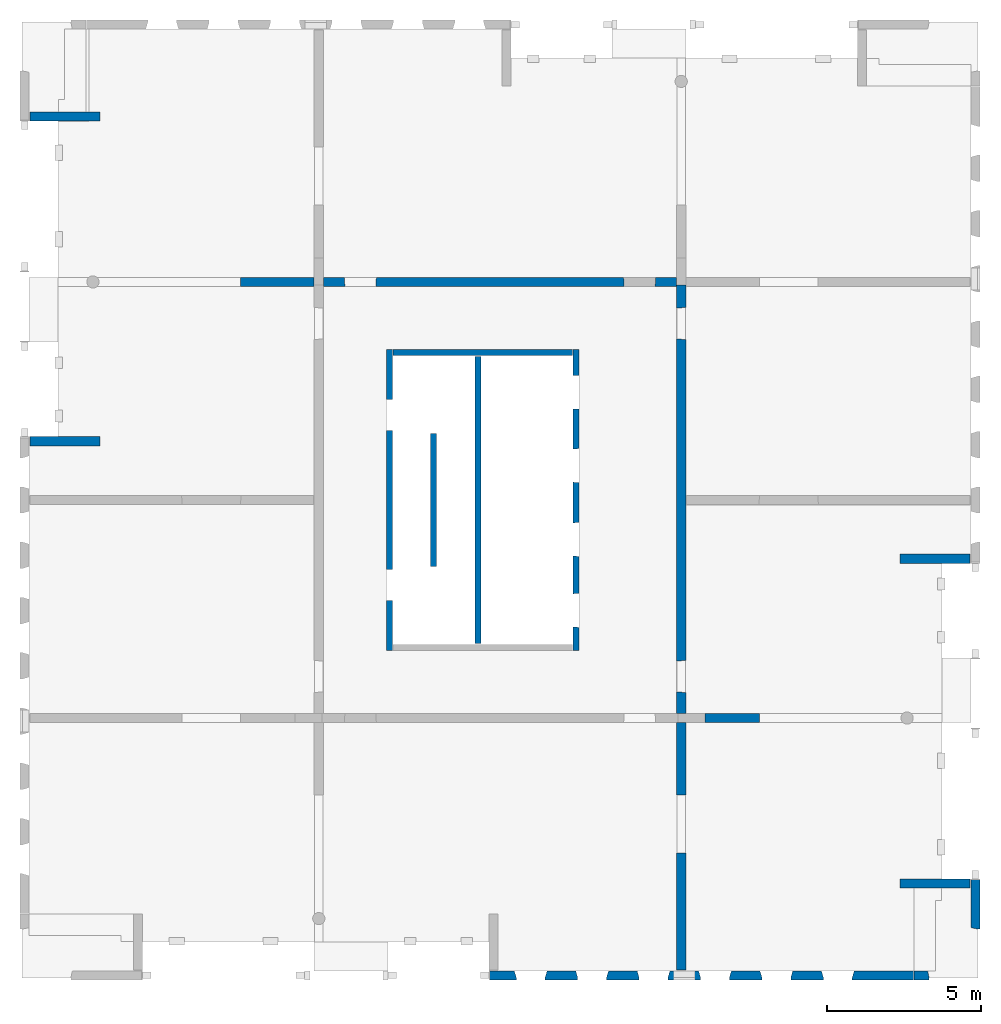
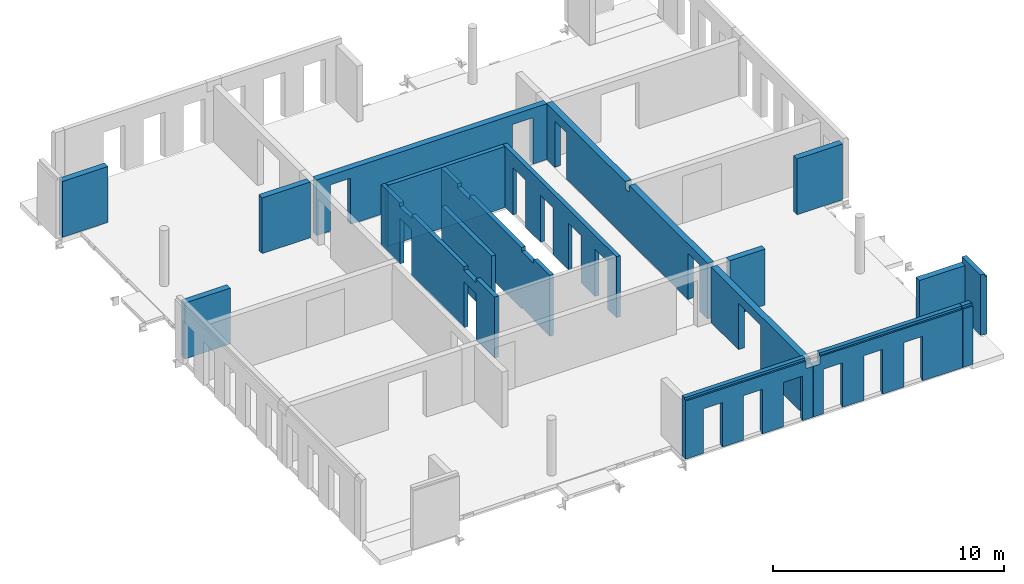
# One storey, part 3 of 6: 19 walls, 36 openings.
"""IFC2X3 building model written with IfcOpenShell, lengths in millimetres."""

from ifc_helpers import new_model, entity, si_unit, converted_unit, derived_unit, direction, frame, frame_2d, origin, origin_2d_with_axis, place, context, subcontext, project, spatial, rectangle, extrude, faceted_brep, material, layer, layer_set, layer_usage, type_object, element, save


model = new_model("IFC2X3")

# Units and contexts
model_context = context("Model", 3, precision=0.01, world=origin(), true_north=direction((6.12303176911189e-17, 1.0)))
body_context = subcontext(model_context, "Body", "Model", "MODEL_VIEW")
ifc_project = project(units=[si_unit("LENGTHUNIT", "METRE", prefix="MILLI"), si_unit("AREAUNIT", "SQUARE_METRE"), si_unit("VOLUMEUNIT", "CUBIC_METRE"), converted_unit("PLANEANGLEUNIT", "DEGREE", entity("IfcRatioMeasure", 0.0174532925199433), si_unit("PLANEANGLEUNIT", "RADIAN"), dimensions=[0, 0, 0, 0, 0, 0, 0]), si_unit("MASSUNIT", "GRAM", prefix="KILO"), derived_unit("MASSDENSITYUNIT", [(si_unit("MASSUNIT", "GRAM", prefix="KILO"), 1), (si_unit("LENGTHUNIT", "METRE"), -3)]), si_unit("TIMEUNIT", "SECOND"), si_unit("FREQUENCYUNIT", "HERTZ"), si_unit("THERMODYNAMICTEMPERATUREUNIT", "DEGREE_CELSIUS"), derived_unit("THERMALTRANSMITTANCEUNIT", [(si_unit("MASSUNIT", "GRAM", prefix="KILO"), 1), (si_unit("THERMODYNAMICTEMPERATUREUNIT", "KELVIN"), -1), (si_unit("TIMEUNIT", "SECOND"), -3)]), derived_unit("VOLUMETRICFLOWRATEUNIT", [(si_unit("LENGTHUNIT", "METRE"), 3), (si_unit("TIMEUNIT", "SECOND"), -1)]), si_unit("ELECTRICCURRENTUNIT", "AMPERE"), si_unit("ELECTRICVOLTAGEUNIT", "VOLT"), si_unit("POWERUNIT", "WATT"), si_unit("FORCEUNIT", "NEWTON", prefix="KILO"), si_unit("ILLUMINANCEUNIT", "LUX"), si_unit("LUMINOUSFLUXUNIT", "LUMEN"), si_unit("LUMINOUSINTENSITYUNIT", "CANDELA"), derived_unit("USERDEFINED", [(si_unit("MASSUNIT", "GRAM", prefix="KILO"), -1), (si_unit("LENGTHUNIT", "METRE"), -2), (si_unit("TIMEUNIT", "SECOND"), 3), (si_unit("LUMINOUSFLUXUNIT", "LUMEN"), 1)]), derived_unit("LINEARVELOCITYUNIT", [(si_unit("LENGTHUNIT", "METRE"), 1), (si_unit("TIMEUNIT", "SECOND"), -1)]), si_unit("PRESSUREUNIT", "PASCAL"), derived_unit("USERDEFINED", [(si_unit("LENGTHUNIT", "METRE"), -2), (si_unit("MASSUNIT", "GRAM", prefix="KILO"), 1), (si_unit("TIMEUNIT", "SECOND"), -2)])], contexts=[model_context])

# Site, building, storey
site_placement = place(None, origin())
site = spatial("IfcSite", under=ifc_project, at=site_placement, Name="Default", CompositionType="ELEMENT")
building_placement = place(site_placement, origin())
building = spatial("IfcBuilding", under=site, at=building_placement, Name="niet gebruiken", CompositionType="ELEMENT")
storey_placement = place(building_placement, frame((0.0, 0.0, 161820.0)))
storey = spatial("IfcBuildingStorey", under=building, at=storey_placement, Name="52 tweeënvijftigste verdieping", CompositionType="ELEMENT", Elevation=161820.0)

# Wall, openings
ifc_material = material(Name="NLRS_f2_beton prefab")
ifc_layer_1 = layer(ifc_material, 200.0)
ifc_layer_set_1 = layer_set([ifc_layer_1], Name="Basic Wall:NLRS_22.21_WA_beton prefab d=200_gen")
ifc_layer_usage_1 = layer_usage(ifc_layer_set_1, "AXIS2", "NEGATIVE", 100.0)
wall_type_1 = type_object("IfcWallType", Name="Basic Wall:NLRS_22.21_WA_beton prefab d=200_gen", PredefinedType="STANDARD", material=ifc_layer_set_1)
wall_1_placement = place(storey_placement, frame((138150.0, 22400.0, -50.0), z_axis=(0.0, 0.0, 1.0), x_axis=(0.0, -1.0, 0.0)))
wall_1 = element("IfcWallStandardCase", 1, at=wall_1_placement, inside=storey, type_object=wall_type_1, material=ifc_layer_usage_1, Name="Basic Wall:NLRS_22.21_WA_beton prefab d=200_gen", ObjectType="Basic Wall:NLRS_22.21_WA_beton prefab d=200_gen", context=body_context, shape_type="SweptSolid", body=[
    extrude(rectangle(XDim=9800.0, YDim=199.999999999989, at=frame_2d((4900.0, 3.76587649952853e-13), x_axis=(-1.0, 0.0))), origin(), (0.0, 0.0, 1.0), 3220.00000000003),
])
opening_1_placement = place(wall_1_placement, origin())
element("IfcOpeningElement", 2, at=opening_1_placement, cuts=wall_1, Name="Basic Wall:NLRS_22.21_WA_beton prefab d=200_gen", ObjectType="Opening", context=body_context, shape_type="SweptSolid", body=[
    extrude(rectangle(XDim=200.000000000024, YDim=1044.0, at=origin_2d_with_axis()), frame((7672.0, -100.0, 3120.0), z_axis=(0.0, 1.0, 0.0), x_axis=(0.0, 0.0, -1.0)), (0.0, 0.0, 1.0), 199.999999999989),
])
opening_2_placement = place(wall_1_placement, origin())
element("IfcOpeningElement", 3, at=opening_2_placement, cuts=wall_1, Name="Basic Wall:NLRS_22.21_WA_beton prefab d=200_gen", ObjectType="Opening", context=body_context, shape_type="SweptSolid", body=[
    extrude(rectangle(XDim=200.000000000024, YDim=1044.0, at=frame_2d((0.0, -2.1600499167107e-12), x_axis=(1.0, 0.0))), frame((2128.0, -100.0, 3120.0), z_axis=(0.0, 1.0, 0.0), x_axis=(0.0, 0.0, -1.0)), (0.0, 0.0, 1.0), 199.999999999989),
])
opening_3_placement = place(wall_1_placement, origin())
element("IfcOpeningElement", 4, at=opening_3_placement, cuts=wall_1, Name="Basic Wall:NLRS_22.21_WA_beton prefab d=200_gen", ObjectType="Opening", context=body_context, shape_type="SweptSolid", body=[
    extrude(rectangle(XDim=2435.00000000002, YDim=1015.99999999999, at=frame_2d((-1.72803993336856e-11, -1.10844666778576e-12), x_axis=(1.0, 0.0))), frame((7672.0, -100.0, 1217.50000000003), z_axis=(0.0, 1.0, 0.0), x_axis=(0.0, 0.0, -1.0)), (0.0, 0.0, 1.0), 199.999999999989),
])
opening_4_placement = place(wall_1_placement, origin())
element("IfcOpeningElement", 5, at=opening_4_placement, cuts=wall_1, Name="Basic Wall:NLRS_22.21_WA_beton prefab d=200_gen", ObjectType="Opening", context=body_context, shape_type="SweptSolid", body=[
    extrude(rectangle(XDim=2435.00000000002, YDim=1015.99999999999, at=frame_2d((-1.72803993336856e-11, -2.18847162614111e-12), x_axis=(1.0, 0.0))), frame((2128.0, -100.0, 1217.50000000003), z_axis=(0.0, 1.0, 0.0), x_axis=(0.0, 0.0, -1.0)), (0.0, 0.0, 1.0), 199.999999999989),
])

ifc_layer_usage_2 = layer_usage(ifc_layer_set_1, "AXIS2", "NEGATIVE", 100.0)
wall_2_placement = place(storey_placement, frame((144230.0, 22400.0, -50.0), z_axis=(0.0, 0.0, 1.0), x_axis=(0.0, -1.0, 0.0)))
wall_2 = element("IfcWallStandardCase", 6, at=wall_2_placement, inside=storey, type_object=wall_type_1, material=ifc_layer_usage_2, Name="Basic Wall:NLRS_22.21_WA_beton prefab d=200_gen", ObjectType="Basic Wall:NLRS_22.21_WA_beton prefab d=200_gen", context=body_context, shape_type="SweptSolid", body=[
    extrude(rectangle(XDim=9800.0, YDim=199.999999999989, at=frame_2d((4900.0, -3.69482222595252e-13), x_axis=(-1.0, 0.0))), origin(), (0.0, 0.0, 1.0), 3220.00000000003),
])
opening_5_placement = place(wall_2_placement, frame((9047.0, -100.0, 0.0)))
element("IfcOpeningElement", 7, at=opening_5_placement, cuts=wall_2, Name="Basic Wall:NLRS_22.21_WA_beton prefab d=200_gen", ObjectType="Opening", context=body_context, shape_type="Brep", body=[
    faceted_brep([(-1104.0, 200.0, 2502.0), (-1104.0, 200.0, 0.0), (-1092.0, 0.0, 0.0), (-1092.0, 0.0, 2490.0), (0.0, 200.0, 0.0), (-12.0, 0.0, 0.0), (-12.0, 0.0, 2490.0), (0.0, 200.0, 2502.0)], [[[0, 1, 2, 3]], [[1, 4, 5, 2]], [[6, 3, 2, 5]], [[7, 4, 1, 0]], [[7, 0, 3, 6]], [[4, 7, 6, 5]]]),
])
opening_6_placement = place(wall_2_placement, frame((6737.0, -100.0, 0.0)))
element("IfcOpeningElement", 8, at=opening_6_placement, cuts=wall_2, Name="Basic Wall:NLRS_22.21_WA_beton prefab d=200_gen", ObjectType="Opening", context=body_context, shape_type="Brep", body=[
    faceted_brep([(-1104.0, 200.0, 2502.0), (-1104.0, 200.0, 0.0), (-1092.0, 0.0, 0.0), (-1092.0, 0.0, 2490.0), (0.0, 200.0, 0.0), (-12.0, 0.0, 0.0), (-12.0, 0.0, 2490.0), (0.0, 200.0, 2502.0)], [[[0, 1, 2, 3]], [[1, 4, 5, 2]], [[6, 3, 2, 5]], [[7, 4, 1, 0]], [[7, 0, 3, 6]], [[4, 7, 6, 5]]]),
])
opening_7_placement = place(wall_2_placement, frame((4332.0, -100.0, 0.0)))
element("IfcOpeningElement", 9, at=opening_7_placement, cuts=wall_2, Name="Basic Wall:NLRS_22.21_WA_beton prefab d=200_gen", ObjectType="Opening", context=body_context, shape_type="Brep", body=[
    faceted_brep([(-1104.0, 200.0, 2502.0), (-1104.0, 200.0, 0.0), (-1092.0, 0.0, 0.0), (-1092.0, 0.0, 2490.0), (0.0, 200.0, 0.0), (-12.0, 0.0, 0.0), (-12.0, 0.0, 2490.0), (0.0, 200.0, 2502.0)], [[[0, 1, 2, 3]], [[1, 4, 5, 2]], [[6, 3, 2, 5]], [[7, 4, 1, 0]], [[7, 0, 3, 6]], [[4, 7, 6, 5]]]),
])
opening_8_placement = place(wall_2_placement, frame((1942.0, -100.0, 0.0)))
element("IfcOpeningElement", 10, at=opening_8_placement, cuts=wall_2, Name="Basic Wall:NLRS_22.21_WA_beton prefab d=200_gen", ObjectType="Opening", context=body_context, shape_type="Brep", body=[
    faceted_brep([(-1104.0, 200.0, 2502.0), (-1104.0, 200.0, 0.0), (-1092.0, 0.0, 0.0), (-1092.0, 0.0, 2490.0), (0.0, 200.0, 0.0), (-12.0, 0.0, 0.0), (-12.0, 0.0, 2490.0), (0.0, 200.0, 2502.0)], [[[0, 1, 2, 3]], [[1, 4, 5, 2]], [[6, 3, 2, 5]], [[7, 4, 1, 0]], [[7, 0, 3, 6]], [[4, 7, 6, 5]]]),
])

ifc_layer_usage_3 = layer_usage(ifc_layer_set_1, "AXIS2", "NEGATIVE", 100.0)
wall_3_placement = place(storey_placement, frame((141030.0, 22180.0, -50.0), z_axis=(0.0, 0.0, 1.0), x_axis=(0.0, -1.0, 0.0)))
wall_3 = element("IfcWallStandardCase", 11, at=wall_3_placement, inside=storey, type_object=wall_type_1, material=ifc_layer_usage_3, Name="Basic Wall:NLRS_22.21_WA_beton prefab d=200_gen", ObjectType="Basic Wall:NLRS_22.21_WA_beton prefab d=200_gen", context=body_context, shape_type="SweptSolid", body=[
    extrude(rectangle(XDim=9360.0, YDim=199.999999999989, at=frame_2d((4680.0, -2.8421709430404e-14), x_axis=(-1.0, 0.0))), origin(), (0.0, 0.0, 1.0), 3220.00000000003),
])
opening_9_placement = place(wall_3_placement, origin())
element("IfcOpeningElement", 12, at=opening_9_placement, cuts=wall_3, Name="Basic Wall:NLRS_22.21_WA_beton prefab d=200_gen", ObjectType="Opening", context=body_context, shape_type="SweptSolid", body=[
    extrude(rectangle(XDim=69.9999999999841, YDim=1044.0, at=frame_2d((1.732658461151e-11, 2.1600499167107e-12), x_axis=(1.0, 0.0))), frame((7452.0, -100.0, 35.0), z_axis=(0.0, 1.0, 0.0), x_axis=(0.0, 0.0, -1.0)), (0.0, 0.0, 1.0), 199.999999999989),
])
opening_10_placement = place(wall_3_placement, origin())
element("IfcOpeningElement", 13, at=opening_10_placement, cuts=wall_3, Name="Basic Wall:NLRS_22.21_WA_beton prefab d=200_gen", ObjectType="Opening", context=body_context, shape_type="SweptSolid", body=[
    extrude(rectangle(XDim=69.9999999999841, YDim=1044.0, at=frame_2d((1.732658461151e-11, 2.1600499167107e-12), x_axis=(1.0, 0.0))), frame((1908.0, -100.0, 35.0), z_axis=(0.0, 1.0, 0.0), x_axis=(0.0, 0.0, -1.0)), (0.0, 0.0, 1.0), 199.999999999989),
])
opening_11_placement = place(wall_3_placement, origin())
element("IfcOpeningElement", 14, at=opening_11_placement, cuts=wall_3, Name="Basic Wall:NLRS_22.21_WA_beton prefab d=200_gen", ObjectType="Opening", context=body_context, shape_type="SweptSolid", body=[
    extrude(rectangle(XDim=199.999999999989, YDim=1044.0, at=frame_2d((1.73301373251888e-11, 2.1600499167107e-12), x_axis=(1.0, 0.0))), frame((1908.0, -100.0, 3120.0), z_axis=(0.0, 1.0, 0.0), x_axis=(0.0, 0.0, -1.0)), (0.0, 0.0, 1.0), 199.999999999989),
])
opening_12_placement = place(wall_3_placement, origin())
element("IfcOpeningElement", 15, at=opening_12_placement, cuts=wall_3, Name="Basic Wall:NLRS_22.21_WA_beton prefab d=200_gen", ObjectType="Opening", context=body_context, shape_type="SweptSolid", body=[
    extrude(rectangle(XDim=199.999999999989, YDim=1044.0, at=frame_2d((1.73301373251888e-11, 0.0), x_axis=(1.0, 0.0))), frame((7452.0, -100.0, 3120.0), z_axis=(0.0, 1.0, 0.0), x_axis=(0.0, 0.0, -1.0)), (0.0, 0.0, 1.0), 199.999999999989),
])
opening_13_placement = place(wall_3_placement, origin())
element("IfcOpeningElement", 16, at=opening_13_placement, cuts=wall_3, Name="Basic Wall:NLRS_22.21_WA_beton prefab d=200_gen", ObjectType="Recess", context=body_context, shape_type="SweptSolid", body=[
    extrude(rectangle(XDim=399.999999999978, YDim=280.000000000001, at=frame_2d((2.1600499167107e-12, 0.0), x_axis=(0.0, 1.0))), frame((770.0, -60.0, 438.0), z_axis=(0.0, 1.0, 0.0), x_axis=(1.0, 0.0, 0.0)), (0.0, 0.0, 1.0), 159.999999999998),
])
opening_14_placement = place(wall_3_placement, origin())
element("IfcOpeningElement", 17, at=opening_14_placement, cuts=wall_3, Name="Basic Wall:NLRS_22.21_WA_beton prefab d=200_gen", ObjectType="Recess", context=body_context, shape_type="SweptSolid", body=[
    extrude(rectangle(XDim=399.999999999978, YDim=280.000000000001, at=frame_2d((2.1600499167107e-12, 0.0), x_axis=(0.0, 1.0))), frame((1570.0, -60.0, 438.0), z_axis=(0.0, 1.0, 0.0), x_axis=(1.0, 0.0, 0.0)), (0.0, 0.0, 1.0), 159.999999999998),
])
opening_15_placement = place(wall_3_placement, origin())
element("IfcOpeningElement", 18, at=opening_15_placement, cuts=wall_3, Name="Basic Wall:NLRS_22.21_WA_beton prefab d=200_gen", ObjectType="Recess", context=body_context, shape_type="SweptSolid", body=[
    extrude(rectangle(XDim=399.999999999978, YDim=279.999999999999, at=frame_2d((-1.08002495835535e-12, 0.0), x_axis=(0.0, 1.0))), frame((3160.0, -60.0, 438.0), z_axis=(0.0, 1.0, 0.0), x_axis=(1.0, 0.0, 0.0)), (0.0, 0.0, 1.0), 159.999999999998),
])
opening_16_placement = place(wall_3_placement, origin())
element("IfcOpeningElement", 19, at=opening_16_placement, cuts=wall_3, Name="Basic Wall:NLRS_22.21_WA_beton prefab d=200_gen", ObjectType="Recess", context=body_context, shape_type="SweptSolid", body=[
    extrude(rectangle(XDim=399.999999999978, YDim=279.999999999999, at=frame_2d((1.08002495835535e-12, 0.0), x_axis=(0.0, 1.0))), frame((3960.0, -60.0, 438.0), z_axis=(0.0, 1.0, 0.0), x_axis=(1.0, 0.0, 0.0)), (0.0, 0.0, 1.0), 159.999999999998),
])

# Walls
ifc_layer_usage_4 = layer_usage(ifc_layer_set_1, "AXIS2", "NEGATIVE", 100.0)
wall_4_placement = place(storey_placement, frame((139590.0, 19660.0, -50.0), z_axis=(0.0, 0.0, 1.0), x_axis=(0.0, -1.0, 0.0)))
element("IfcWallStandardCase", 20, at=wall_4_placement, inside=storey, type_object=wall_type_1, material=ifc_layer_usage_4, Name="Basic Wall:NLRS_22.21_WA_beton prefab d=200_gen", ObjectType="Basic Wall:NLRS_22.21_WA_beton prefab d=200_gen", context=body_context, shape_type="SweptSolid", body=[
    extrude(rectangle(XDim=4320.0, YDim=199.999999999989, at=frame_2d((2160.0, 0.0), x_axis=(-1.0, 0.0))), origin(), (0.0, 0.0, 1.0), 3220.00000000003),
])
ifc_layer_usage_5 = layer_usage(ifc_layer_set_1, "AXIS2", "NEGATIVE", 100.0)
wall_5_placement = place(storey_placement, frame((138270.0, 22300.0, -50.0)))
element("IfcWallStandardCase", 21, at=wall_5_placement, inside=storey, type_object=wall_type_1, material=ifc_layer_usage_5, Name="Basic Wall:NLRS_22.21_WA_beton prefab d=200_gen", ObjectType="Basic Wall:NLRS_22.21_WA_beton prefab d=200_gen", context=body_context, shape_type="SweptSolid", body=[
    extrude(rectangle(XDim=5839.99999999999, YDim=199.999999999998, at=frame_2d((2919.99999999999, -7.60280727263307e-13), x_axis=(-1.0, 0.0))), origin(), (0.0, 0.0, 1.0), 3220.00000000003),
])
ifc_layer_usage_6 = layer_usage(ifc_layer_set_1, "AXIS2", "NEGATIVE", 100.0)
wall_6_placement = place(storey_placement, frame((138270.0, 22300.0, -50.0)))
element("IfcWallStandardCase", 22, at=wall_6_placement, inside=storey, type_object=wall_type_1, material=ifc_layer_usage_6, Name="Basic Wall:NLRS_22.21_WA_beton prefab d=200_gen", ObjectType="Basic Wall:NLRS_22.21_WA_beton prefab d=200_gen", context=body_context, shape_type="SweptSolid", body=[
    extrude(rectangle(XDim=5839.99999999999, YDim=199.999999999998, at=frame_2d((2919.99999999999, -7.60280727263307e-13), x_axis=(-1.0, 0.0))), origin(), (0.0, 0.0, 1.0), 3220.00000000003),
])

# Wall, opening
ifc_layer_2 = layer(ifc_material, 300.0)
ifc_layer_set_2 = layer_set([ifc_layer_2], Name="Basic Wall:NLRS_22.21_WA_beton prefab d=300_gen")
ifc_layer_usage_7 = layer_usage(ifc_layer_set_2, "AXIS2", "NEGATIVE", 150.0)
wall_type_2 = type_object("IfcWallType", Name="Basic Wall:NLRS_22.21_WA_beton prefab d=300_gen", PredefinedType="STANDARD", material=ifc_layer_set_2)
wall_7_placement = place(storey_placement, frame((147650.0, 10250.0, -60.0), z_axis=(0.0, 0.0, 1.0), x_axis=(0.0, -1.0, 0.0)))
wall_7 = element("IfcWallStandardCase", 23, at=wall_7_placement, inside=storey, type_object=wall_type_2, material=ifc_layer_usage_7, Name="Basic Wall:NLRS_22.21_WA_beton prefab d=300_gen", ObjectType="Basic Wall:NLRS_22.21_WA_beton prefab d=300_gen", context=body_context, shape_type="SweptSolid", body=[
    extrude(rectangle(XDim=8059.99999999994, YDim=300.000000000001, at=frame_2d((4029.99999999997, 3.69482222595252e-13), x_axis=(-1.0, 0.0))), origin(), (0.0, 0.0, 1.0), 2939.99999999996),
])
opening_17_placement = place(wall_7_placement, origin())
element("IfcOpeningElement", 24, at=opening_17_placement, cuts=wall_7, Name="Basic Wall:NLRS_22.21_WA_beton prefab d=300_gen", ObjectType="Opening", context=body_context, shape_type="SweptSolid", body=[
    extrude(rectangle(XDim=2469.99999999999, YDim=1899.99999999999, at=frame_2d((1.73940861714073e-11, -5.6843418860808e-13), x_axis=(1.0, 0.0))), frame((3300.0, -150.0, 1225.0), z_axis=(0.0, 1.0, 0.0), x_axis=(0.0, 0.0, -1.0)), (0.0, 0.0, 1.0), 300.000000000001),
])

# Walls
ifc_layer_usage_8 = layer_usage(ifc_layer_set_2, "AXIS2", "NEGATIVE", 150.0)
wall_8_placement = place(storey_placement, frame((135700.0, 24600.0, -60.0), z_axis=(0.0, 0.0, 1.0), x_axis=(-1.0, 0.0, 0.0)))
element("IfcWallStandardCase", 25, at=wall_8_placement, inside=storey, type_object=wall_type_2, material=ifc_layer_usage_8, Name="Basic Wall:NLRS_22.21_WA_beton prefab d=300_gen", ObjectType="Basic Wall:NLRS_22.21_WA_beton prefab d=300_gen", context=body_context, shape_type="SweptSolid", body=[
    extrude(rectangle(XDim=2399.9999999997, YDim=300.000000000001, at=frame_2d((1199.99999999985, -3.5527136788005e-13), x_axis=(-1.0, 0.0))), origin(), (0.0, 0.0, 1.0), 2939.99999999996),
])
ifc_layer_usage_9 = layer_usage(ifc_layer_set_2, "AXIS2", "NEGATIVE", 150.0)
wall_9_placement = place(storey_placement, frame((148430.0, 10400.0, -70.0)))
element("IfcWallStandardCase", 26, at=wall_9_placement, inside=storey, type_object=wall_type_2, material=ifc_layer_usage_9, Name="Basic Wall:NLRS_22.21_WA_beton prefab d=300_gen", ObjectType="Basic Wall:NLRS_22.21_WA_beton prefab d=300_gen", context=body_context, shape_type="SweptSolid", body=[
    extrude(rectangle(XDim=1770.00000000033, YDim=300.000000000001, at=frame_2d((885.000000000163, -1.70530256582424e-13), x_axis=(-1.0, 0.0))), origin(), (0.0, 0.0, 1.0), 2949.99999999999),
])

# Wall, openings
ifc_layer_usage_10 = layer_usage(ifc_layer_set_2, "AXIS2", "NEGATIVE", 150.0)
wall_10_placement = place(storey_placement, frame((147650.0, 24500.0, -60.0), z_axis=(0.0, 0.0, 1.0), x_axis=(0.0, -1.0, 0.0)))
wall_10 = element("IfcWallStandardCase", 27, at=wall_10_placement, inside=storey, type_object=wall_type_2, material=ifc_layer_usage_10, Name="Basic Wall:NLRS_22.21_WA_beton prefab d=300_gen", ObjectType="Basic Wall:NLRS_22.21_WA_beton prefab d=300_gen", context=body_context, shape_type="SweptSolid", body=[
    extrude(rectangle(XDim=13949.9999999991, YDim=300.000000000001, at=frame_2d((6974.99999999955, 4.2632564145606e-14), x_axis=(-1.0, 0.0))), origin(), (0.0, 0.0, 1.0), 2939.99999999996),
])
opening_18_placement = place(wall_10_placement, frame((13268.0, -150.0, -10.0)))
element("IfcOpeningElement", 28, at=opening_18_placement, cuts=wall_10, Name="Basic Wall:NLRS_22.21_WA_beton prefab d=300_gen", ObjectType="Opening", context=body_context, shape_type="Brep", body=[
    faceted_brep([(-1042.0, 300.0, 2466.0), (-1042.0, 300.0, 0.0), (-1024.0, 0.0, 0.0), (-1024.0, 0.0, 2448.0), (0.0, 300.0, 0.0), (-18.0, 0.0, 0.0), (-18.0, 0.0, 2448.0), (0.0, 300.0, 2466.0)], [[[0, 1, 2, 3]], [[1, 4, 5, 2]], [[6, 3, 2, 5]], [[7, 4, 1, 0]], [[7, 0, 3, 6]], [[4, 7, 6, 5]]]),
])
opening_19_placement = place(wall_10_placement, frame((1774.0, -150.0, -10.0)))
element("IfcOpeningElement", 29, at=opening_19_placement, cuts=wall_10, Name="Basic Wall:NLRS_22.21_WA_beton prefab d=300_gen", ObjectType="Opening", context=body_context, shape_type="Brep", body=[
    faceted_brep([(-1042.0, 300.0, 2466.0), (-1042.0, 300.0, 0.0), (-1024.0, 0.0, 0.0), (-1024.0, 0.0, 2448.0), (0.0, 300.0, 0.0), (-18.0, 0.0, 0.0), (-18.0, 0.0, 2448.0), (0.0, 300.0, 2466.0)], [[[0, 1, 2, 3]], [[1, 4, 5, 2]], [[6, 3, 2, 5]], [[7, 4, 1, 0]], [[7, 0, 3, 6]], [[4, 7, 6, 5]]]),
])
opening_20_placement = place(wall_10_placement, origin())
element("IfcOpeningElement", 30, at=opening_20_placement, cuts=wall_10, Name="Basic Wall:NLRS_22.21_WA_beton prefab d=300_gen", ObjectType="Opening", context=body_context, shape_type="SweptSolid", body=[
    extrude(rectangle(XDim=350.000000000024, YDim=340.000000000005, at=frame_2d((0.0, 0.0), x_axis=(0.0, 1.0))), frame((7000.0, 150.0, 2765.0), z_axis=(0.0, -1.0, 0.0), x_axis=(-1.0, 0.0, 0.0)), (0.0, 0.0, 1.0), 300.0),
])

ifc_layer_usage_11 = layer_usage(ifc_layer_set_2, "AXIS2", "NEGATIVE", 150.0)
wall_11_placement = place(storey_placement, frame((136000.0, 24600.0, -60.0)))
wall_11 = element("IfcWallStandardCase", 31, at=wall_11_placement, inside=storey, type_object=wall_type_2, material=ifc_layer_usage_11, Name="Basic Wall:NLRS_22.21_WA_beton prefab d=300_gen", ObjectType="Basic Wall:NLRS_22.21_WA_beton prefab d=300_gen", context=body_context, shape_type="SweptSolid", body=[
    extrude(rectangle(XDim=11499.9999999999, YDim=300.000000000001, at=frame_2d((5749.99999999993, -1.08002495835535e-12), x_axis=(-1.0, 0.0))), origin(), (0.0, 0.0, 1.0), 2939.99999999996),
])
opening_21_placement = place(wall_11_placement, frame((682.0, -150.0, -10.0)))
element("IfcOpeningElement", 32, at=opening_21_placement, cuts=wall_11, Name="Basic Wall:NLRS_22.21_WA_beton prefab d=300_gen", ObjectType="Opening", context=body_context, shape_type="Brep", body=[
    faceted_brep([(0.0, 300.0, 2466.0), (0.0, 300.0, 0.0), (18.0, 0.0, 0.0), (18.0, 0.0, 2448.0), (1042.0, 300.0, 0.0), (1024.0, 0.0, 0.0), (1024.0, 0.0, 2448.0), (1042.0, 300.0, 2466.0)], [[[0, 1, 2, 3]], [[1, 4, 5, 2]], [[6, 3, 2, 5]], [[7, 4, 1, 0]], [[7, 0, 3, 6]], [[4, 7, 6, 5]]]),
])
opening_22_placement = place(wall_11_placement, frame((9776.0, -150.0, -10.0)))
element("IfcOpeningElement", 33, at=opening_22_placement, cuts=wall_11, Name="Basic Wall:NLRS_22.21_WA_beton prefab d=300_gen", ObjectType="Opening", context=body_context, shape_type="Brep", body=[
    faceted_brep([(0.0, 300.0, 2466.0), (0.0, 300.0, 0.0), (18.0, 0.0, 0.0), (18.0, 0.0, 2448.0), (1042.0, 300.0, 0.0), (1024.0, 0.0, 0.0), (1024.0, 0.0, 2448.0), (1042.0, 300.0, 2466.0)], [[[0, 1, 2, 3]], [[1, 4, 5, 2]], [[6, 3, 2, 5]], [[7, 4, 1, 0]], [[7, 0, 3, 6]], [[4, 7, 6, 5]]]),
])

# Walls
ifc_layer_usage_12 = layer_usage(ifc_layer_set_2, "AXIS2", "NEGATIVE", 150.0)
wall_12_placement = place(storey_placement, frame((128720.0, 29990.0, -70.0), z_axis=(0.0, 0.0, 1.0), x_axis=(-1.0, 0.0, 0.0)))
element("IfcWallStandardCase", 34, at=wall_12_placement, inside=storey, type_object=wall_type_2, material=ifc_layer_usage_12, Name="Basic Wall:NLRS_22.21_WA_beton prefab d=300_gen", ObjectType="Basic Wall:NLRS_22.21_WA_beton prefab d=300_gen", context=body_context, shape_type="SweptSolid", body=[
    extrude(rectangle(XDim=2279.99999999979, YDim=300.000000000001, at=frame_2d((1139.9999999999, -1.30739863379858e-12), x_axis=(-1.0, 0.0))), origin(), (0.0, 0.0, 1.0), 2949.99999999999),
])
ifc_layer_usage_13 = layer_usage(ifc_layer_set_2, "AXIS2", "NEGATIVE", 150.0)
wall_13_placement = place(storey_placement, frame((157060.0, 5010.0, -70.0), z_axis=(0.0, 0.0, 1.0), x_axis=(-1.0, 0.0, 0.0)))
element("IfcWallStandardCase", 35, at=wall_13_placement, inside=storey, type_object=wall_type_2, material=ifc_layer_usage_13, Name="Basic Wall:NLRS_22.21_WA_beton prefab d=300_gen", ObjectType="Basic Wall:NLRS_22.21_WA_beton prefab d=300_gen", context=body_context, shape_type="SweptSolid", body=[
    extrude(rectangle(XDim=2280.00000000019, YDim=300.0, at=frame_2d((1140.0000000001, 3.12638803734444e-13), x_axis=(-1.0, 0.0))), origin(), (0.0, 0.0, 1.0), 2949.99999999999),
])
ifc_layer_usage_14 = layer_usage(ifc_layer_set_2, "AXIS2", "NEGATIVE", 150.0)
wall_14_placement = place(storey_placement, frame((128720.0, 19410.0, -70.0), z_axis=(0.0, 0.0, 1.0), x_axis=(-1.0, 0.0, 0.0)))
element("IfcWallStandardCase", 36, at=wall_14_placement, inside=storey, type_object=wall_type_2, material=ifc_layer_usage_14, Name="Basic Wall:NLRS_22.21_WA_beton prefab d=300_gen", ObjectType="Basic Wall:NLRS_22.21_WA_beton prefab d=300_gen", context=body_context, shape_type="SweptSolid", body=[
    extrude(rectangle(XDim=2279.99999999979, YDim=300.000000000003, at=frame_2d((1139.9999999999, 1.93267624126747e-12), x_axis=(-1.0, 0.0))), origin(), (0.0, 0.0, 1.0), 2949.99999999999),
])
ifc_layer_usage_15 = layer_usage(ifc_layer_set_2, "AXIS2", "NEGATIVE", 150.0)
wall_15_placement = place(storey_placement, frame((157060.0, 15590.0, -70.0), z_axis=(0.0, 0.0, 1.0), x_axis=(-1.0, 0.0, 0.0)))
element("IfcWallStandardCase", 37, at=wall_15_placement, inside=storey, type_object=wall_type_2, material=ifc_layer_usage_15, Name="Basic Wall:NLRS_22.21_WA_beton prefab d=300_gen", ObjectType="Basic Wall:NLRS_22.21_WA_beton prefab d=300_gen", context=body_context, shape_type="SweptSolid", body=[
    extrude(rectangle(XDim=2280.00000000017, YDim=300.000000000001, at=frame_2d((1140.00000000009, -2.27373675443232e-13), x_axis=(-1.0, 0.0))), origin(), (0.0, 0.0, 1.0), 2949.99999999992),
])

# Wall, openings
ifc_layer_3 = layer(ifc_material, 300.0)
ifc_layer_set_3 = layer_set([ifc_layer_3], Name="Basic Wall:NLRS_21.21_WA_beton prefab d=300/320_gen")
ifc_layer_usage_16 = layer_usage(ifc_layer_set_3, "AXIS2", "NEGATIVE", 150.0)
wall_type_3 = type_object("IfcWallType", Name="Basic Wall:NLRS_21.21_WA_beton prefab d=300/320_gen", PredefinedType="STANDARD", material=ifc_layer_set_3)
wall_16_placement = place(storey_placement, frame((155210.0, 2020.0, -50.0), z_axis=(0.0, 0.0, 1.0), x_axis=(-1.0, 0.0, 0.0)))
wall_16 = element("IfcWallStandardCase", 38, at=wall_16_placement, inside=storey, type_object=wall_type_3, material=ifc_layer_usage_16, Name="Basic Wall:NLRS_21.21_WA_beton prefab d=300/320_gen", ObjectType="Basic Wall:NLRS_21.21_WA_beton prefab d=300/320_gen", context=body_context, shape_type="SweptSolid", body=[
    extrude(rectangle(XDim=7449.9999999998, YDim=300.0, at=frame_2d((3724.9999999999, 5.6843418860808e-14), x_axis=(-1.0, 0.0))), origin(), (0.0, 0.0, 1.0), 3199.99999999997),
])
opening_23_placement = place(wall_16_placement, frame((4995.0, 150.0, -20.0)))
element("IfcOpeningElement", 39, at=opening_23_placement, cuts=wall_16, Name="Basic Wall:NLRS_21.21_WA_beton prefab d=300/320_gen", ObjectType="Opening", context=body_context, shape_type="Brep", body=[
    faceted_brep([(0.0, -300.0, 2405.0), (-1070.0, -300.0, 2405.0), (-1070.0, -300.0, 0.0), (0.0, -300.0, 0.0), (-65.0, -81.0, 2370.0), (-1005.0, -81.0, 2370.0), (-1005.0, -81.0, 0.0), (-1005.0, 0.0, 0.0), (-65.0, 0.0, 0.0), (-65.0, -81.0, 0.0), (-65.0, 0.0, 2370.0), (-1005.0, 0.0, 2370.0)], [[[0, 1, 2, 3]], [[1, 0, 4, 5]], [[2, 1, 5, 6]], [[3, 2, 6, 7, 8, 9]], [[0, 3, 9, 4]], [[10, 8, 7, 11]], [[10, 11, 5, 4]], [[11, 7, 6, 5]], [[8, 10, 4, 9]]]),
])
opening_24_placement = place(wall_16_placement, frame((2995.0, 150.0, -20.0)))
element("IfcOpeningElement", 40, at=opening_24_placement, cuts=wall_16, Name="Basic Wall:NLRS_21.21_WA_beton prefab d=300/320_gen", ObjectType="Opening", context=body_context, shape_type="Brep", body=[
    faceted_brep([(0.0, -300.0, 2405.0), (-1070.0, -300.0, 2405.0), (-1070.0, -300.0, 0.0), (0.0, -300.0, 0.0), (-65.0, -81.0, 2370.0), (-1005.0, -81.0, 2370.0), (-1005.0, -81.0, 0.0), (-1005.0, 0.0, 0.0), (-65.0, 0.0, 0.0), (-65.0, -81.0, 0.0), (-65.0, 0.0, 2370.0), (-1005.0, 0.0, 2370.0)], [[[0, 1, 2, 3]], [[1, 0, 4, 5]], [[2, 1, 5, 6]], [[3, 2, 6, 7, 8, 9]], [[0, 3, 9, 4]], [[10, 8, 7, 11]], [[10, 11, 5, 4]], [[11, 7, 6, 5]], [[8, 10, 4, 9]]]),
])
opening_25_placement = place(wall_16_placement, frame((6995.0, 150.0, -20.0)))
element("IfcOpeningElement", 41, at=opening_25_placement, cuts=wall_16, Name="Basic Wall:NLRS_21.21_WA_beton prefab d=300/320_gen", ObjectType="Opening", context=body_context, shape_type="Brep", body=[
    faceted_brep([(-1070.0, -300.0, 2405.0), (-1070.0, -300.0, 0.0), (0.0, -300.0, 0.0), (0.0, -300.0, 2405.0), (-65.0, -81.0, 2370.0), (-1005.0, -81.0, 2370.0), (-65.0, -81.0, 0.0), (-1005.0, -81.0, 0.0), (-1005.0, 0.0, 0.0), (-65.0, 0.0, 0.0), (-1005.0, 0.0, 2370.0), (-65.0, 0.0, 2370.0)], [[[0, 1, 2, 3]], [[3, 4, 5, 0]], [[2, 6, 4, 3]], [[1, 7, 8, 9, 6, 2]], [[0, 5, 7, 1]], [[10, 11, 9, 8]], [[10, 5, 4, 11]], [[11, 4, 6, 9]], [[8, 7, 5, 10]]]),
])
opening_26_placement = place(wall_16_placement, origin())
element("IfcOpeningElement", 42, at=opening_26_placement, cuts=wall_16, Name="Basic Wall:NLRS_21.21_WA_beton prefab d=300/320_gen", ObjectType="Recess", context=body_context, shape_type="SweptSolid", body=[
    extrude(rectangle(XDim=124.999999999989, YDim=27940.0, at=origin_2d_with_axis()), frame((13460.0, 66.0, 3137.50000000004), z_axis=(0.0, 1.0, 0.0), x_axis=(0.0, 0.0, -1.0)), (0.0, 0.0, 1.0), 84.0000000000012),
])
opening_27_placement = place(wall_16_placement, origin())
element("IfcOpeningElement", 43, at=opening_27_placement, cuts=wall_16, Name="Basic Wall:NLRS_21.21_WA_beton prefab d=300/320_gen", ObjectType="Opening", context=body_context, shape_type="SweptSolid", body=[
    extrude(rectangle(XDim=515.000000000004, YDim=345.000000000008, at=origin_2d_with_axis()), frame((7277.49999999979, 150.0, 2942.49999999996), z_axis=(0.0, -1.0, 0.0), x_axis=(0.0, 0.0, 1.0)), (0.0, 0.0, 1.0), 300.0),
])

ifc_layer_usage_17 = layer_usage(ifc_layer_set_3, "AXIS2", "NEGATIVE", 150.0)
wall_17_placement = place(storey_placement, frame((155720.0, 2020.0, -50.0), z_axis=(0.0, 0.0, 1.0), x_axis=(-1.0, 0.0, 0.0)))
wall_17 = element("IfcWallStandardCase", 44, at=wall_17_placement, inside=storey, type_object=wall_type_3, material=ifc_layer_usage_17, Name="Basic Wall:NLRS_21.21_WA_beton prefab d=300/320_gen", ObjectType="Basic Wall:NLRS_21.21_WA_beton prefab d=300/320_gen", context=body_context, shape_type="SweptSolid", body=[
    extrude(rectangle(XDim=489.999999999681, YDim=300.0, at=frame_2d((244.99999999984, -4.2632564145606e-14), x_axis=(-1.0, 0.0))), origin(), (0.0, 0.0, 1.0), 3199.99999999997),
])
opening_28_placement = place(wall_17_placement, frame((65.0, 69.0, -20.0)))
element("IfcOpeningElement", 45, at=opening_28_placement, cuts=wall_17, Name="Basic Wall:NLRS_21.21_WA_beton prefab d=300/320_gen", ObjectType="Opening", context=body_context, shape_type="Brep", body=[
    faceted_brep([(-65.0, -319.0, 3240.0), (0.0, -319.0, 3240.0), (-65.0, 0.0, 3240.0), (-65.0, -319.0, 0.0), (-65.0, 0.0, 0.0), (0.0, -319.0, 0.0)], [[[0, 1, 2]], [[3, 4, 5]], [[1, 0, 3, 5]], [[0, 2, 4, 3]], [[2, 1, 5, 4]]]),
])
opening_29_placement = place(wall_17_placement, origin())
element("IfcOpeningElement", 46, at=opening_29_placement, cuts=wall_17, Name="Basic Wall:NLRS_21.21_WA_beton prefab d=300/320_gen", ObjectType="Recess", context=body_context, shape_type="SweptSolid", body=[
    extrude(rectangle(XDim=124.999999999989, YDim=27940.0, at=origin_2d_with_axis()), frame((13970.0, 66.0, 3137.50000000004), z_axis=(0.0, 1.0, 0.0), x_axis=(0.0, 0.0, -1.0)), (0.0, 0.0, 1.0), 84.0000000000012),
])

ifc_layer_usage_18 = layer_usage(ifc_layer_set_3, "AXIS2", "NEGATIVE", 150.0)
wall_18_placement = place(storey_placement, frame((157230.0, 5160.0, -50.0), z_axis=(0.0, 0.0, 1.0), x_axis=(0.0, -1.0, 0.0)))
wall_18 = element("IfcWallStandardCase", 47, at=wall_18_placement, inside=storey, type_object=wall_type_3, material=ifc_layer_usage_18, Name="Basic Wall:NLRS_21.21_WA_beton prefab d=300/320_gen", ObjectType="Basic Wall:NLRS_21.21_WA_beton prefab d=300/320_gen", context=body_context, shape_type="SweptSolid", body=[
    extrude(rectangle(XDim=1629.99999999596, YDim=300.000000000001, at=frame_2d((814.999999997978, 3.22586402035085e-12), x_axis=(-1.0, 0.0))), origin(), (0.0, 0.0, 1.0), 3199.99999999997),
])
opening_30_placement = place(wall_18_placement, frame((1630.0, -250.0, -20.0)))
element("IfcOpeningElement", 48, at=opening_30_placement, cuts=wall_18, Name="Basic Wall:NLRS_21.21_WA_beton prefab d=300/320_gen", ObjectType="Opening", context=body_context, shape_type="Brep", body=[
    faceted_brep([(0.0, 0.0, 3240.0), (0.0, 319.0, 3240.0), (-65.0, 0.0, 3240.0), (0.0, 0.0, 0.0), (-65.0, 0.0, 0.0), (0.0, 319.0, 0.0)], [[[0, 1, 2]], [[3, 4, 5]], [[2, 4, 3, 0]], [[0, 3, 5, 1]], [[1, 5, 4, 2]]]),
])
opening_31_placement = place(wall_18_placement, origin())
element("IfcOpeningElement", 49, at=opening_31_placement, cuts=wall_18, Name="Basic Wall:NLRS_21.21_WA_beton prefab d=300/320_gen", ObjectType="Recess", context=body_context, shape_type="SweptSolid", body=[
    extrude(rectangle(XDim=124.999999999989, YDim=27940.0, at=frame_2d((0.0, 4.54747350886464e-12), x_axis=(1.0, 0.0))), frame((-12340.0, 66.0, 3137.50000000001), z_axis=(0.0, 1.0, 0.0), x_axis=(0.0, 0.0, -1.0)), (0.0, 0.0, 1.0), 83.9999999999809),
])

ifc_layer_usage_19 = layer_usage(ifc_layer_set_3, "AXIS2", "NEGATIVE", 150.0)
wall_19_placement = place(storey_placement, frame((147740.0, 2020.0, -50.0), z_axis=(0.0, 0.0, 1.0), x_axis=(-1.0, 0.0, 0.0)))
wall_19 = element("IfcWallStandardCase", 50, at=wall_19_placement, inside=storey, type_object=wall_type_3, material=ifc_layer_usage_19, Name="Basic Wall:NLRS_21.21_WA_beton prefab d=300/320_gen", ObjectType="Basic Wall:NLRS_21.21_WA_beton prefab d=300/320_gen", context=body_context, shape_type="SweptSolid", body=[
    extrude(rectangle(XDim=6350.00000000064, YDim=300.0, at=frame_2d((3175.00000000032, -4.2632564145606e-14), x_axis=(-1.0, 0.0))), origin(), (0.0, 0.0, 1.0), 3199.99999999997),
])
opening_32_placement = place(wall_19_placement, frame((5525.0, 150.0, -20.0)))
element("IfcOpeningElement", 51, at=opening_32_placement, cuts=wall_19, Name="Basic Wall:NLRS_21.21_WA_beton prefab d=300/320_gen", ObjectType="Opening", context=body_context, shape_type="Brep", body=[
    faceted_brep([(0.0, -300.0, 2405.0), (-1070.0, -300.0, 2405.0), (-1070.0, -300.0, 0.0), (0.0, -300.0, 0.0), (-65.0, -81.0, 2370.0), (-1005.0, -81.0, 2370.0), (-1005.0, -81.0, 0.0), (-1005.0, 0.0, 0.0), (-65.0, 0.0, 0.0), (-65.0, -81.0, 0.0), (-65.0, 0.0, 2370.0), (-1005.0, 0.0, 2370.0)], [[[0, 1, 2, 3]], [[1, 0, 4, 5]], [[2, 1, 5, 6]], [[3, 2, 6, 7, 8, 9]], [[0, 3, 9, 4]], [[10, 8, 7, 11]], [[10, 11, 5, 4]], [[11, 7, 6, 5]], [[8, 10, 4, 9]]]),
])
opening_33_placement = place(wall_19_placement, frame((3525.0, 150.0, -20.0)))
element("IfcOpeningElement", 52, at=opening_33_placement, cuts=wall_19, Name="Basic Wall:NLRS_21.21_WA_beton prefab d=300/320_gen", ObjectType="Opening", context=body_context, shape_type="Brep", body=[
    faceted_brep([(0.0, -300.0, 2405.0), (-1070.0, -300.0, 2405.0), (-1070.0, -300.0, 0.0), (0.0, -300.0, 0.0), (-65.0, -81.0, 2370.0), (-1005.0, -81.0, 2370.0), (-1005.0, -81.0, 0.0), (-1005.0, 0.0, 0.0), (-65.0, 0.0, 0.0), (-65.0, -81.0, 0.0), (-65.0, 0.0, 2370.0), (-1005.0, 0.0, 2370.0)], [[[0, 1, 2, 3]], [[1, 0, 4, 5]], [[2, 1, 5, 6]], [[3, 2, 6, 7, 8, 9]], [[0, 3, 9, 4]], [[10, 8, 7, 11]], [[10, 11, 5, 4]], [[11, 7, 6, 5]], [[8, 10, 4, 9]]]),
])
opening_34_placement = place(wall_19_placement, frame((1525.0, 150.0, -20.0)))
element("IfcOpeningElement", 53, at=opening_34_placement, cuts=wall_19, Name="Basic Wall:NLRS_21.21_WA_beton prefab d=300/320_gen", ObjectType="Opening", context=body_context, shape_type="Brep", body=[
    faceted_brep([(0.0, -300.0, 2405.0), (-1070.0, -300.0, 2405.0), (-1070.0, -300.0, 0.0), (0.0, -300.0, 0.0), (-65.0, -81.0, 2370.0), (-1005.0, -81.0, 2370.0), (-1005.0, -81.0, 0.0), (-1005.0, 0.0, 0.0), (-65.0, 0.0, 0.0), (-65.0, -81.0, 0.0), (-65.0, 0.0, 2370.0), (-1005.0, 0.0, 2370.0)], [[[0, 1, 2, 3]], [[1, 0, 4, 5]], [[2, 1, 5, 6]], [[3, 2, 6, 7, 8, 9]], [[0, 3, 9, 4]], [[10, 8, 7, 11]], [[10, 11, 5, 4]], [[11, 7, 6, 5]], [[8, 10, 4, 9]]]),
])
opening_35_placement = place(wall_19_placement, origin())
element("IfcOpeningElement", 54, at=opening_35_placement, cuts=wall_19, Name="Basic Wall:NLRS_21.21_WA_beton prefab d=300/320_gen", ObjectType="Recess", context=body_context, shape_type="SweptSolid", body=[
    extrude(rectangle(XDim=124.999999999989, YDim=27940.0, at=origin_2d_with_axis()), frame((5990.0, 66.0, 3137.50000000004), z_axis=(0.0, 1.0, 0.0), x_axis=(0.0, 0.0, -1.0)), (0.0, 0.0, 1.0), 84.0000000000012),
])
opening_36_placement = place(wall_19_placement, origin())
element("IfcOpeningElement", 55, at=opening_36_placement, cuts=wall_19, Name="Basic Wall:NLRS_21.21_WA_beton prefab d=300/320_gen", ObjectType="Opening", context=body_context, shape_type="SweptSolid", body=[
    extrude(rectangle(XDim=515.000000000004, YDim=344.999999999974, at=frame_2d((0.0, 0.0), x_axis=(0.0, 1.0))), frame((172.500000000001, 150.0, 2942.49999999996), z_axis=(0.0, -1.0, 0.0), x_axis=(-1.0, 0.0, 0.0)), (0.0, 0.0, 1.0), 300.0),
])

save(model, "model.ifc")
